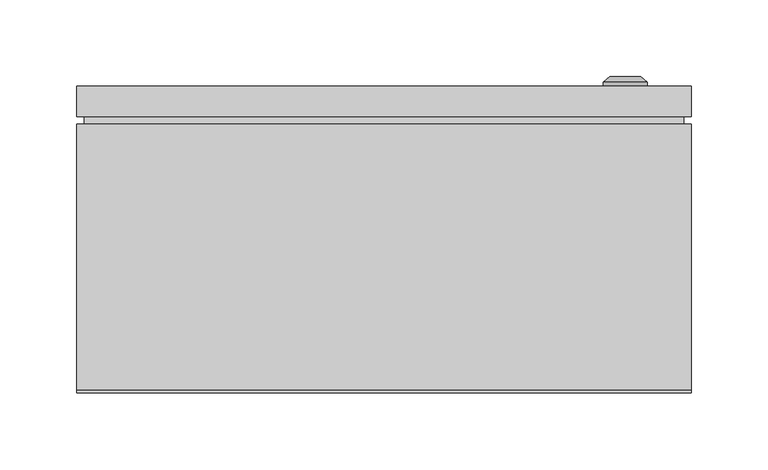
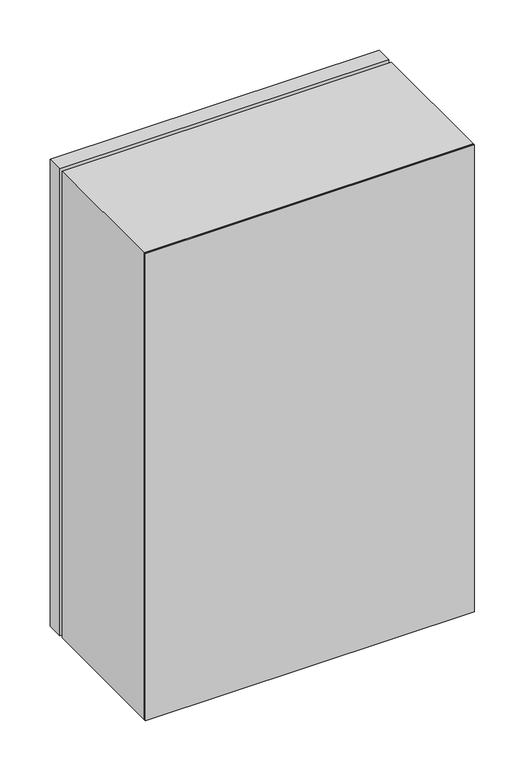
"""IFC4 building model written with IfcOpenShell, lengths in millimetres: proxy geometry, ЩМП_IP65 : ЩМП-6.4.2_600х400х200."""

from ifc_helpers import new_model, si_unit, frame, origin, origin_with_axes, place, context, project, spatial, polyline, circle_curve, outline, extrude, source, transform, mapped, element, save
from ifc_brep_helpers import plane_surface, cylinder_surface, revolved_surface, advanced_brep


def electrical_equipment_45d32a1f(model_context):
    return source(origin(), model_context, "Body", "SolidModel", [
        extrude(outline(polyline([(195.0, 175.0), (-195.0, 175.0), (-195.0, 180.0), (195.0, 180.0), (195.0, 175.0)])), frame((0.0, 0.0, 5.0), z_axis=(0.0, 0.0, 1.0), x_axis=(1.0, 0.0, 0.0)), (0.0, 0.0, 1.0), 590.0),
        extrude(outline(polyline([(200.0, 180.0), (-200.0, 180.0), (-200.0, 200.0), (200.0, 200.0), (200.0, 180.0)])), origin_with_axes(), (0.0, 0.0, 1.0), 600.0),
        advanced_brep(
        [(142.669873, 200.0, 296.0), (171.330127, 200.0, 296.0), (157.0, 200.0, 296.0), (142.669873, 202.366592, 296.0), (171.330127, 202.366592, 296.0), (147.0, 206.0, 296.0), (167.0, 206.0, 296.0), (155.1080471, 206.0, 296.0), (158.8919529, 206.0, 296.0), (155.1080471, 204.9822294, 296.0), (158.8919529, 204.9822294, 296.0), (157.0, 204.9822294, 296.0)],
        [
            (0, 1, circle_curve(frame((157.0, 200.0, 296.0), z_axis=(0.0, -1.0, 0.0), x_axis=(1.0, 0.0, 0.0)), 14.330127)),
            (1, 2),
            (2, 0),
            (1, 0, circle_curve(frame((157.0, 200.0, 296.0), z_axis=(0.0, -1.0, 0.0), x_axis=(1.0, 0.0, 0.0)), 14.330127)),
            (3, 4, circle_curve(frame((157.0, 202.366592, 296.0), z_axis=(0.0, -1.0, 0.0), x_axis=(1.0, 0.0, 0.0)), 14.330127)),
            (4, 1),
            (0, 3),
            (4, 3, circle_curve(frame((157.0, 202.366592, 296.0), z_axis=(0.0, -1.0, 0.0), x_axis=(1.0, 0.0, 0.0)), 14.330127)),
            (5, 6, circle_curve(frame((157.0, 206.0, 296.0), z_axis=(0.0, -1.0, 0.0), x_axis=(1.0, 0.0, 0.0)), 10.0)),
            (6, 4),
            (3, 5),
            (6, 5, circle_curve(frame((157.0, 206.0, 296.0), z_axis=(0.0, -1.0, 0.0), x_axis=(1.0, 0.0, 0.0)), 10.0)),
            (7, 8, circle_curve(frame((157.0, 206.0, 296.0), z_axis=(0.0, -1.0, 0.0), x_axis=(1.0, 0.0, 0.0)), 1.8919529)),
            (8, 6),
            (5, 7),
            (8, 7, circle_curve(frame((157.0, 206.0, 296.0), z_axis=(0.0, -1.0, 0.0), x_axis=(1.0, 0.0, 0.0)), 1.8919529)),
            (9, 10, circle_curve(frame((157.0, 204.9822294, 296.0), z_axis=(0.0, -1.0, 0.0), x_axis=(1.0, 0.0, 0.0)), 1.8919529)),
            (10, 8),
            (7, 9),
            (10, 9, circle_curve(frame((157.0, 204.9822294, 296.0), z_axis=(0.0, -1.0, 0.0), x_axis=(1.0, 0.0, 0.0)), 1.8919529)),
            (11, 10),
            (9, 11),
        ],
        [
            plane_surface(frame((157.0, 200.0, 296.0), z_axis=(0.0, -1.0, 0.0), x_axis=(1.0, 0.0, 0.0))),
            cylinder_surface(frame((157.0, 213.1348851, 296.0), z_axis=(0.0, 1.0, 0.0), x_axis=(1.0, 0.0, 0.0)), 14.330127),
            revolved_surface(polyline([(171.330127, 202.366592, 296.0), (167.0, 206.0, 296.0)]), (157.0, 213.1348851, 296.0), (0.0, 1.0, 0.0)),
            plane_surface(frame((157.0, 206.0, 296.0), z_axis=(0.0, 1.0, 0.0), x_axis=(1.0, 0.0, 0.0))),
            revolved_surface(polyline([(158.8919529, 206.0, 296.0), (158.8919529, 204.9822294, 296.0)]), (157.0, 213.1348851, 296.0), (0.0, 1.0, 0.0)),
            plane_surface(frame((157.0, 204.9822294, 296.0), z_axis=(0.0, 1.0, 0.0), x_axis=(1.0, 0.0, 0.0))),
        ],
        [
            (0, [[1, 2, 3]]),
            (0, [[4, -3, -2]]),
            (1, [[5, 6, -1, 7]]),
            (1, [[8, -7, -4, -6]]),
            (2, [[9, 10, -5, 11]]),
            (2, [[12, -11, -8, -10]]),
            (3, [[13, 14, -9, 15]]),
            (3, [[16, -15, -12, -14]]),
            (4, [[17, 18, -13, 19]]),
            (4, [[20, -19, -16, -18]]),
            (5, [[21, -17, 22]]),
            (5, [[-22, -20, -21]]),
        ],
    ),
        extrude(outline(polyline([(600.0, -200.0033905), (0.0, -200.0033905), (0.0, 199.9966095), (600.0, 199.9966095), (600.0, -200.0033905)]), holes=[polyline([(565.0, -167.0033905), (565.0, 166.9966095), (27.0, 166.9966095), (27.0, -167.0033905), (565.0, -167.0033905)])]), frame((0.0, 2.0, 0.0), z_axis=(0.0, 1.0, 0.0), x_axis=(0.0, 0.0, 1.0)), (0.0, 0.0, 1.0), 173.0),
        extrude(outline(polyline([(200.0, 0.0), (-200.0, 0.0), (-200.0, 2.0), (200.0, 2.0), (200.0, 0.0)])), origin_with_axes(), (0.0, 0.0, 1.0), 600.0),
    ])


if __name__ == "__main__":
    model = new_model("IFC4")
    model_context = context("Model", 3, world=origin())
    ifc_project = project(units=[si_unit("LENGTHUNIT", "METRE", prefix="MILLI")], contexts=[model_context])
    site = spatial("IfcSite", under=ifc_project)
    building = spatial("IfcBuilding", under=site)
    placement = place(None, origin())
    electrical_equipment_shape = electrical_equipment_45d32a1f(model_context)
    element("IfcBuildingElementProxy", 1, Name="ЩМП_IP65 : ЩМП-6.4.2_600х400х200", ObjectType="ЩМП_IP65 : ЩМП-6.4.2_600х400х200", at=placement, inside=building, context=model_context, shape_type="MappedRepresentation", body=[
        mapped(electrical_equipment_shape, transform((0.0, 0.0, 0.0), x_axis=(1.0, 0.0, 0.0), y_axis=(0.0, 1.0, 0.0), z_axis=(0.0, 0.0, 1.0))),
    ])
    save(model, "model.ifc")
